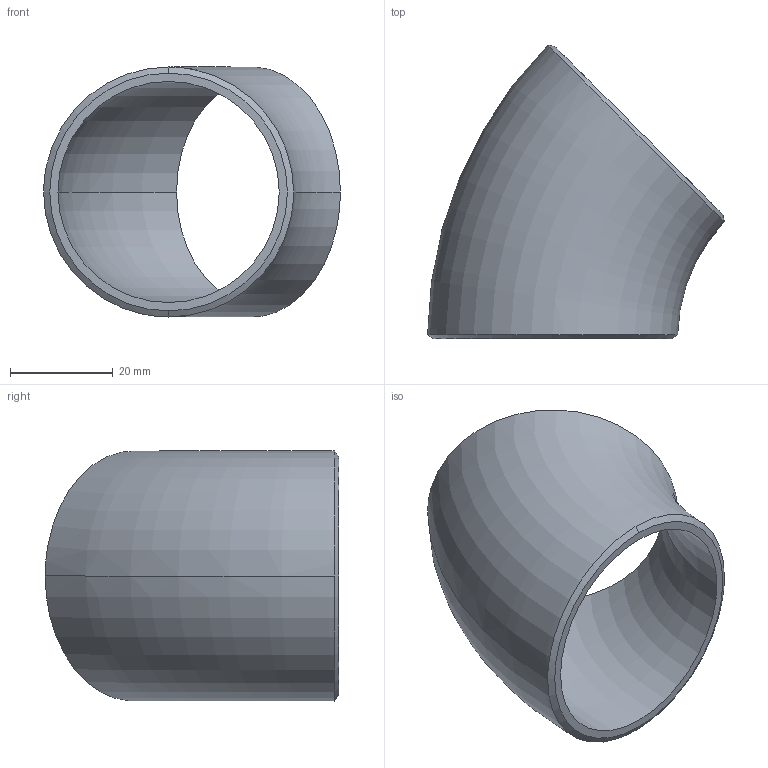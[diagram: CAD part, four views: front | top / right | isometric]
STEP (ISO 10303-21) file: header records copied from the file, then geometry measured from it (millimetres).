
FILE_DESCRIPTION (( 'STEP AP214' ), '1' );
FILE_NAME ('Elbow-long-45deg_Sch10S-40A.STEP', '2022-06-23T04:33:19', ( 'ASIS User' ), ( 'ASIS User' ), 'SwSTEP 2.0', 'SolidWorks 2022', '' );
FILE_SCHEMA (( 'AUTOMOTIVE_DESIGN' ));
Length unit declared in the file: millimetre
Products named in the file (1): Elbow-long-45deg_Sch10S-40A
Bounding box: 57.7 x 57.1 x 48.6 mm (x, y, z)
Volume: 17967 mm3; surface area: 13570.7 mm2
Topology: 1 solids, 1 shells, 10 faces, 22 edges, 14 vertices
Faces by surface type: torus 4, cone 4, plane 2
Entity records: 543 total; most frequent: CARTESIAN_POINT 282, DIRECTION 50, ORIENTED_EDGE 44, AXIS2_PLACEMENT_3D 23, EDGE_CURVE 22, VERTEX_POINT 14, CIRCLE 12, EDGE_LOOP 12
